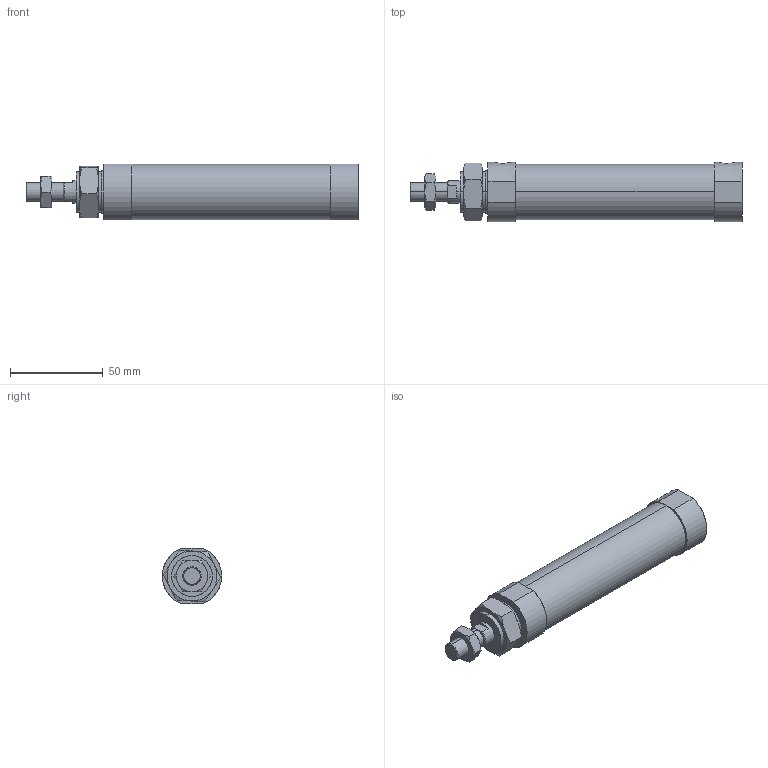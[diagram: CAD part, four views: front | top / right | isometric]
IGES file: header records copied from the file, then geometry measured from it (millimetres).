
Start section: SolidWorks IGES file using analytic representation for surfaces
Global section: file name: C:\Users\Toshiba\Desktop\JGND2-25-75-N.IGS; native system: SolidWorks 2014; preprocessor: SolidWorks 2014; author: Toshiba; date: 160804.103820; units: millimetre
Bounding box: 179 x 32 x 30 mm (x, y, z)
Surface area: 20990.1 mm2 (no closed solid volume)
Topology: 0 solids, 0 shells, 89 faces, 1592 edges, 1588 vertices
Faces by surface type: bspline 59, revolution 30
